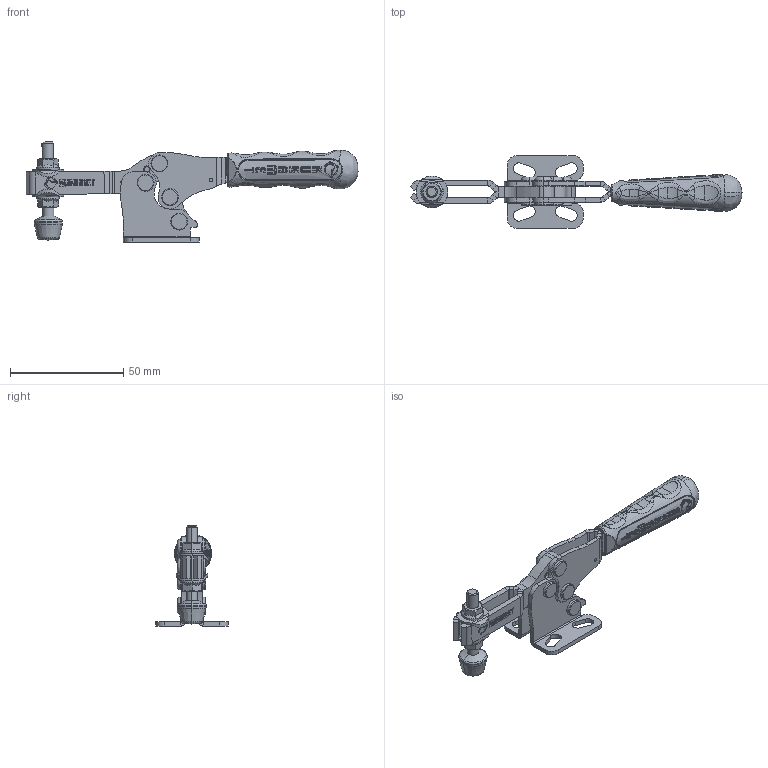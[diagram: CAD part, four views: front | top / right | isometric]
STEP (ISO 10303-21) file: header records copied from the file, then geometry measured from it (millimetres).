
FILE_DESCRIPTION(('STEP AP203'),'1');
FILE_NAME('111-1.stp','2023-09-08T07:31:15',('TraceParts'),('TraceParts S.A.'),'Spatial InterOp 3D',' ',' ');
FILE_SCHEMA(('CONFIG_CONTROL_DESIGN'));
Length unit declared in the file: millimetre
Products named in the file (1): 1
Bounding box: 146.87 x 32 x 44.29 mm (x, y, z)
Volume: 22176.6 mm3; surface area: 17946.1 mm2
Topology: 7 solids, 9 shells, 1534 faces, 3790 edges, 2250 vertices
Faces by surface type: cylinder 520, plane 466, bspline 383, sphere 80, torus 59, cone 26
Entity records: 57526 total; most frequent: CARTESIAN_POINT 24728, ORIENTED_EDGE 7428, DIRECTION 6013, EDGE_CURVE 3714, AXIS2_PLACEMENT_3D 2356, VERTEX_POINT 2250, EDGE_LOOP 1618, ADVANCED_FACE 1534
